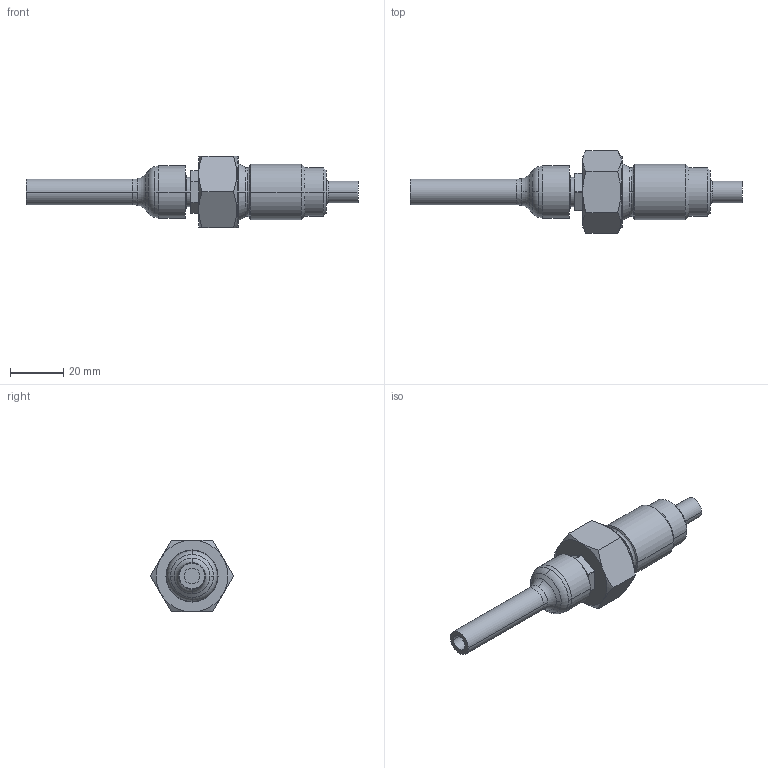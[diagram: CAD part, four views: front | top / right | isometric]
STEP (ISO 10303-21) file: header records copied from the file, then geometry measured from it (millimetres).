
FILE_DESCRIPTION( ( '' ), '1' );
FILE_NAME( '//partserver002.servicenet/client_exchange/iodir/jobs/output/wkb6669379_no2/STEP/sf311a_2_03.stp', '2007-03-28T07:58:54', ( '' ), ( '' ), ' ', ' ', ' ' );
FILE_SCHEMA( ( 'CONFIG_CONTROL_DESIGN' ) );
Length unit declared in the file: millimetre
Products named in the file (1): 1
Bounding box: 125 x 31.18 x 27 mm (x, y, z)
Volume: 28040.4 mm3; surface area: 8176.8 mm2
Topology: 1 solids, 1 shells, 81 faces, 197 edges, 125 vertices
Faces by surface type: cylinder 32, plane 21, cone 18, torus 10
Entity records: 2442 total; most frequent: DIRECTION 460, CARTESIAN_POINT 428, ORIENTED_EDGE 394, EDGE_CURVE 197, AXIS2_PLACEMENT_3D 193, VERTEX_POINT 125, CIRCLE 111, EDGE_LOOP 88
